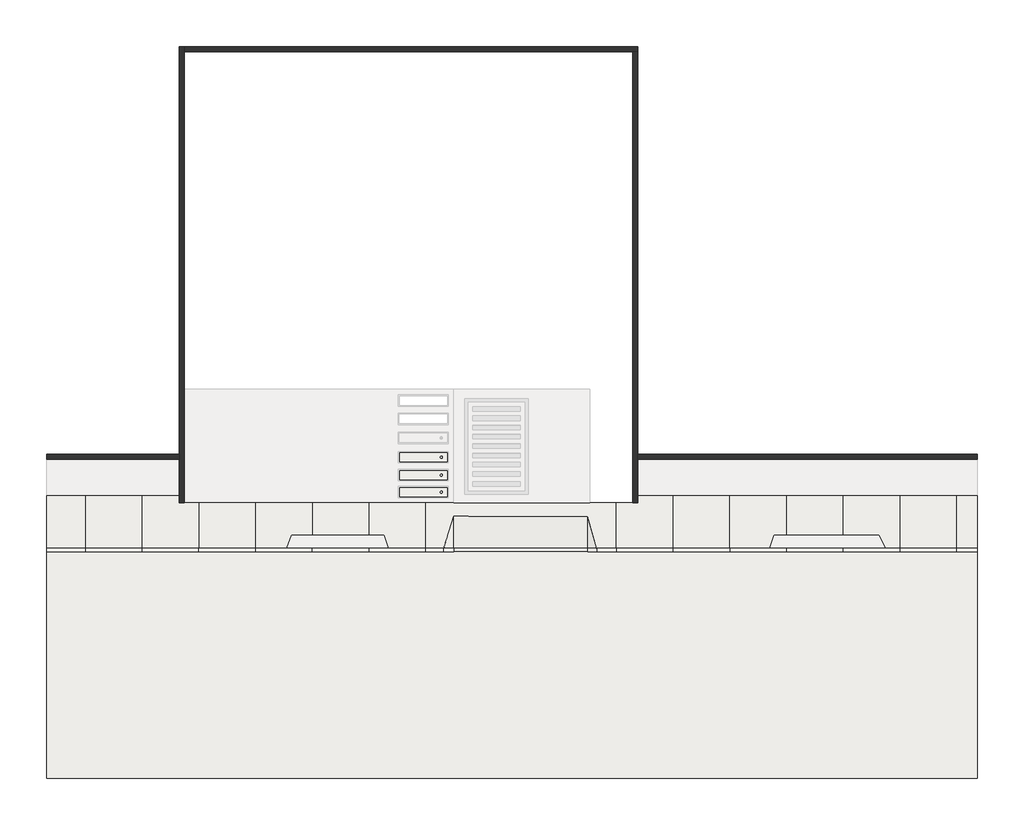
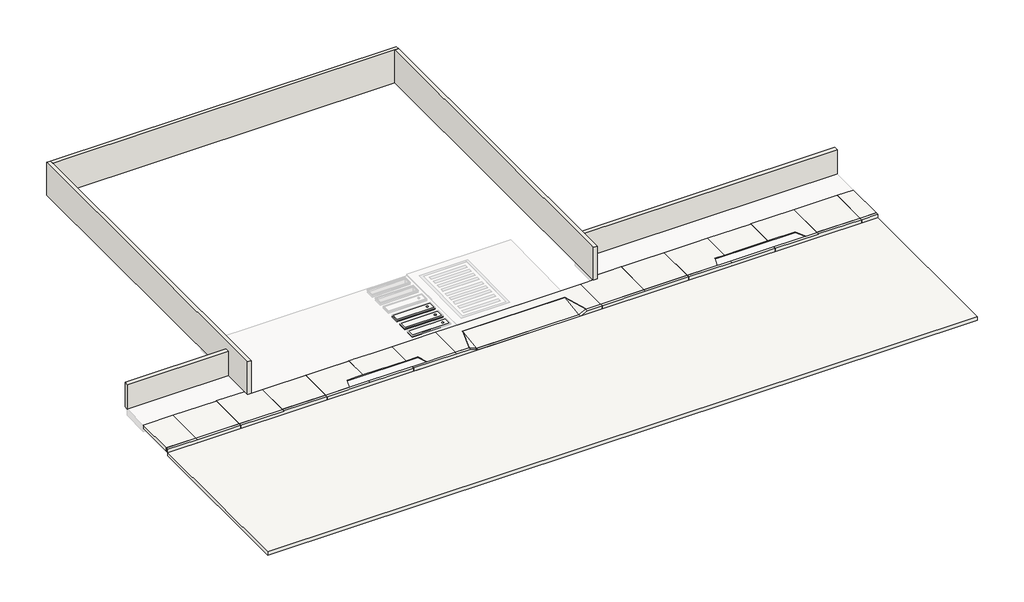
# One storey, part 1 of 2: 6 slabs, 5 walls.
"""IFC4 building model written with IfcOpenShell, lengths in millimetres."""

import ifcopenshell
import ifcopenshell.guid

model = None  # the IFC model being written
_history = None  # IfcOwnerHistory: only IFC2X3 demands one
_inside = {}  # id of a spatial element -> (the spatial element, [elements in it])
_under = {}  # id of a project, library or spatial element -> (it, [spatial elements below it])
_declared = {}  # id of a project -> (the project, [libraries it declares])
_typed = {}  # id of a type object -> (the type object, [elements of that type])
_made_of = {}  # id of a material, layer set ... -> (it, [elements and type objects made of it])


def new_model(schema):
    """Start an empty IFC model of exactly this schema.

    Asked for "IFC4X3", IfcOpenShell would pick the latest addendum, in which some entities
    have other attributes; the version numbers below select the first issue.
    IFC2X3 requires an IfcOwnerHistory on every rooted entity: one is made here for all.
    """
    global model, _history
    if schema == "IFC4X3":
        model = ifcopenshell.file(schema_version=(4, 3, 0, 0))
    else:
        model = ifcopenshell.file(schema=schema)
    _inside.clear()
    _under.clear()
    _declared.clear()
    _typed.clear()
    _made_of.clear()
    _history = None
    if model.schema == "IFC2X3":
        org = make("IfcOrganization", Name="unknown")
        user = make(
            "IfcPersonAndOrganization",
            ThePerson=make("IfcPerson", FamilyName="unknown"),
            TheOrganization=org,
        )
        app = make(
            "IfcApplication",
            ApplicationDeveloper=org,
            Version="unknown",
            ApplicationFullName="unknown",
            ApplicationIdentifier="unknown",
        )
        _history = make(
            "IfcOwnerHistory",
            OwningUser=user,
            OwningApplication=app,
            ChangeAction="ADDED",
            CreationDate=0,
        )
    return model


def make(cls, **values):
    """One entity of the class cls with the attributes given. An attribute that is None is left unset."""
    return model.create_entity(
        cls, **{name: value for name, value in values.items() if value is not None}
    )


def rooted(cls, **values):
    """An entity with a GlobalId (a new one), such as an element, a storey or a relation."""
    return make(cls, GlobalId=ifcopenshell.guid.new(), OwnerHistory=_history, **values)


def si_unit(unit_type, name, prefix=None):
    """IfcSIUnit, for example si_unit("LENGTHUNIT", "METRE", prefix="MILLI")."""
    return make("IfcSIUnit", UnitType=unit_type, Prefix=prefix, Name=name)


def assignment(units):
    """IfcUnitAssignment: the units of a project."""
    return None if units is None else make("IfcUnitAssignment", Units=units)


def point(xyz):
    """IfcCartesianPoint."""
    return None if xyz is None else make("IfcCartesianPoint", Coordinates=xyz)


def direction(xyz):
    """IfcDirection."""
    return None if xyz is None else make("IfcDirection", DirectionRatios=xyz)


def frame(location, z_axis=None, x_axis=None):
    """IfcAxis2Placement3D, a coordinate frame: its origin and axes. An axis left out is left unset."""
    return make(
        "IfcAxis2Placement3D",
        Location=point(location),
        Axis=direction(z_axis),
        RefDirection=direction(x_axis),
    )


def frame_2d(location, x_axis=None):
    """IfcAxis2Placement2D, a coordinate frame in the plane: its origin and x axis."""
    return make(
        "IfcAxis2Placement2D", Location=point(location), RefDirection=direction(x_axis)
    )


def origin():
    """The frame at (0, 0, 0) with its axes left unset."""
    return frame((0.0, 0.0, 0.0))


def origin_with_axes():
    """The frame at (0, 0, 0) with the z axis (0, 0, 1) and the x axis (1, 0, 0) written out."""
    return frame((0.0, 0.0, 0.0), z_axis=(0.0, 0.0, 1.0), x_axis=(1.0, 0.0, 0.0))


def place(relative_to, where):
    """IfcLocalPlacement: puts the frame where relative to a parent placement (None: the world)."""
    return make(
        "IfcLocalPlacement", PlacementRelTo=relative_to, RelativePlacement=where
    )


def context(
    kind, dimensions, precision=None, world=None, true_north=None, identifier=None
):
    """IfcGeometricRepresentationContext, for example the 3D "Model" context."""
    return make(
        "IfcGeometricRepresentationContext",
        ContextIdentifier=identifier,
        ContextType=kind,
        CoordinateSpaceDimension=dimensions,
        Precision=precision,
        WorldCoordinateSystem=world,
        TrueNorth=true_north,
    )


def project(units=None, contexts=None):
    """IfcProject with its units and contexts."""
    return rooted(
        "IfcProject",
        Name="project",
        RepresentationContexts=contexts,
        UnitsInContext=assignment(units),
    )


def spatial(cls, under=None, at=None, **own):
    """A site, building, storey or space (cls), placed at a placement, below another one or the project."""
    s = rooted(cls, ObjectPlacement=at, **own)
    if under is not None:
        _under.setdefault(under.id(), (under, []))[1].append(s)
    return s


def polyline(points):
    """IfcPolyline through the points."""
    return make("IfcPolyline", Points=[point(p) for p in points])


def circle_curve(where, radius):
    """IfcCircle in the frame where."""
    return make("IfcCircle", Position=where, Radius=radius)


def trimmed(basis, trim1, trim2, sense, master):
    """IfcTrimmedCurve: the piece of a basis curve between two trims."""
    return make(
        "IfcTrimmedCurve",
        BasisCurve=basis,
        Trim1=trim1,
        Trim2=trim2,
        SenseAgreement=sense,
        MasterRepresentation=master,
    )


def segment(curve, same_sense, transition):
    """IfcCompositeCurveSegment."""
    return make(
        "IfcCompositeCurveSegment",
        Transition=transition,
        SameSense=same_sense,
        ParentCurve=curve,
    )


def composite_curve(segments, self_intersect=None):
    """IfcCompositeCurve: segments joined end to end."""
    return make("IfcCompositeCurve", Segments=segments, SelfIntersect=self_intersect)


def outline(outer, holes=None, kind="AREA"):
    """IfcArbitraryClosedProfileDef: a profile drawn as a closed curve; with holes, ...WithVoids."""
    if holes is None:
        return make("IfcArbitraryClosedProfileDef", ProfileType=kind, OuterCurve=outer)
    return make(
        "IfcArbitraryProfileDefWithVoids",
        ProfileType=kind,
        OuterCurve=outer,
        InnerCurves=holes,
    )


def extrude(swept, where, along, depth):
    """IfcExtrudedAreaSolid: the profile swept, set in the frame where, extruded along a direction by depth."""
    return make(
        "IfcExtrudedAreaSolid",
        SweptArea=swept,
        Position=where,
        ExtrudedDirection=direction(along),
        Depth=depth,
    )


def faces_of(points, faces, orient=None, outer=None):
    """IfcFace entities. A face is a list of loops; a loop is a list of indices into points, from 0.

    orient and outer hold one flag for each loop. By default every Orientation is true, the
    first loop of a face is its IfcFaceOuterBound and the others are IfcFaceBound.
    """
    made = []
    for i, loops in enumerate(faces):
        bounds = []
        for j, loop in enumerate(loops):
            is_outer = j == 0 if outer is None else outer[i][j]
            bounds.append(
                make(
                    "IfcFaceOuterBound" if is_outer else "IfcFaceBound",
                    Bound=make("IfcPolyLoop", Polygon=[points[k] for k in loop]),
                    Orientation=True if orient is None else orient[i][j],
                )
            )
        made.append(make("IfcFace", Bounds=bounds))
    return made


def faceted_brep(points, faces, orient=None, outer=None, voids=None):
    """IfcFacetedBrep: a solid bounded by flat faces; with voids (closed shells), ...WithVoids."""
    shared = [point(p) for p in points]
    hull = make("IfcClosedShell", CfsFaces=faces_of(shared, faces, orient, outer))
    if voids is None:
        return make("IfcFacetedBrep", Outer=hull)
    return make(
        "IfcFacetedBrepWithVoids",
        Outer=hull,
        Voids=[
            make(cls, CfsFaces=faces_of(shared, fs, o, b)) for cls, fs, o, b in voids
        ],
    )


def shape(context_of_items, identifier, shape_type, items):
    """IfcShapeRepresentation: the items that make up one representation, for example the "Body"."""
    return make(
        "IfcShapeRepresentation",
        ContextOfItems=context_of_items,
        RepresentationIdentifier=identifier,
        RepresentationType=shape_type,
        Items=items,
    )


def made_of(thing, what):
    """Note that an element or type object is made of a material, layer set ...; save() writes the relation."""
    if what is not None:
        _made_of.setdefault(what.id(), (what, []))[1].append(thing)
    return thing


def element(
    cls,
    number,
    at=None,
    inside=None,
    cuts=None,
    type_object=None,
    material=None,
    context=None,
    identifier="Body",
    shape_type=None,
    held_by="IfcProductDefinitionShape",
    body=None,
    shapes=None,
    **own,
):
    """One element of the class cls, such as IfcWall. Its Tag is "e" and its number.

    at: its placement. inside: the storey or other place that contains it. cuts: it is an
    opening in that element (IfcRelVoidsElement). A single representation is given by context,
    identifier, shape_type and body (its items); several are given by shapes. held_by: the class
    of the entity that holds the representations. save() writes the other relations.
    """
    e = rooted(cls, Tag="e%d" % number, ObjectPlacement=at, **own)
    if body is not None:
        shapes = [shape(context, identifier, shape_type, body)]
    if shapes is not None:
        e.Representation = make(held_by, Representations=shapes)
    if inside is not None:
        _inside.setdefault(inside.id(), (inside, []))[1].append(e)
    if cuts is not None:
        rooted(
            "IfcRelVoidsElement", RelatingBuildingElement=cuts, RelatedOpeningElement=e
        )
    if type_object is not None:
        _typed.setdefault(type_object.id(), (type_object, []))[1].append(e)
    return made_of(e, material)


def aggregate(whole, parts):
    """IfcRelAggregates: a whole, such as a stair, and the parts it consists of."""
    return rooted("IfcRelAggregates", RelatingObject=whole, RelatedObjects=parts)


def save(model, path):
    """Write the relations noted so far, then the file.

    IfcRelAggregates (storeys below a building ...), IfcRelContainedInSpatialStructure (elements
    in a storey), IfcRelDefinesByType, IfcRelAssociatesMaterial and IfcRelDeclares: one each for
    every whole, place, type object, material and project.
    """
    for whole, parts in _under.values():
        aggregate(whole, parts)
    for where, things in _inside.values():
        rooted(
            "IfcRelContainedInSpatialStructure",
            RelatedElements=things,
            RelatingStructure=where,
        )
    for kind, things in _typed.values():
        rooted("IfcRelDefinesByType", RelatedObjects=things, RelatingType=kind)
    for what, things in _made_of.values():
        rooted("IfcRelAssociatesMaterial", RelatedObjects=things, RelatingMaterial=what)
    for by, libraries in _declared.values():
        rooted("IfcRelDeclares", RelatingContext=by, RelatedDefinitions=libraries)
    model.write(path)


def plane_surface(at):
    """IfcPlane: the flat surface through the origin of the frame at, square to its z axis."""
    return make("IfcPlane", Position=at)


def spline_surface(u_degree, v_degree, points, u_multiplicities, v_multiplicities, u_knots, v_knots, weights=None):
    """IfcBSplineSurfaceWithKnots; with weights, IfcRationalBSplineSurfaceWithKnots. points: one row for each step in u."""
    own = dict(
        UDegree=u_degree,
        VDegree=v_degree,
        ControlPointsList=[[point(p) for p in row] for row in points],
        SurfaceForm="UNSPECIFIED",
        UClosed=False,
        VClosed=False,
        SelfIntersect=False,
        UMultiplicities=u_multiplicities,
        VMultiplicities=v_multiplicities,
        UKnots=u_knots,
        VKnots=v_knots,
        KnotSpec="UNSPECIFIED",
    )
    if weights is None:
        return make("IfcBSplineSurfaceWithKnots", **own)
    return make("IfcRationalBSplineSurfaceWithKnots", WeightsData=weights, **own)


def advanced_brep(points, edges, surfaces, faces):
    """IfcAdvancedBrep: a solid bounded by faces that lie on surfaces and meet in shared edges.

    An edge is (start, end): straight between two places in points (the first is 0);
    or (start, end, curve); or (start, end, curve, False) where it runs against its curve.
    A face is (place in surfaces, loops), or (place, loops, False) where it looks against
    its surface's normal. A loop lists edges by number (the first is 1), with a minus sign
    where the edge is run from its end to its start. The first loop is the outer one.
    """
    corners = [point(p) for p in points]
    vertices = [make("IfcVertexPoint", VertexGeometry=c) for c in corners]
    made = []
    for start, end, *more in edges:
        made.append(
            make(
                "IfcEdgeCurve",
                EdgeStart=vertices[start],
                EdgeEnd=vertices[end],
                EdgeGeometry=more[0] if more else make("IfcPolyline", Points=[corners[start], corners[end]]),
                SameSense=more[1] if len(more) > 1 else True,
            )
        )
    hull = []
    for where, loops, *sense in faces:
        bounds = []
        for j, loop in enumerate(loops):
            ring = [make("IfcOrientedEdge", EdgeElement=made[abs(k) - 1], Orientation=k > 0) for k in loop]
            bounds.append(
                make(
                    "IfcFaceOuterBound" if j == 0 else "IfcFaceBound",
                    Bound=make("IfcEdgeLoop", EdgeList=ring),
                    Orientation=True,
                )
            )
        hull.append(make("IfcAdvancedFace", Bounds=bounds, FaceSurface=surfaces[where], SameSense=sense[0] if sense else True))
    return make("IfcAdvancedBrep", Outer=make("IfcClosedShell", CfsFaces=hull))


model = new_model("IFC4")

# Units and contexts
model_context = context("Model", 3, world=origin())
ifc_project = project(units=[si_unit("LENGTHUNIT", "METRE", prefix="MILLI")], contexts=[model_context])

# Site, building, storey
site = spatial("IfcSite", under=ifc_project)
building = spatial("IfcBuilding", under=site)
storey = spatial("IfcBuildingStorey", under=building, Name="CALÇADA", Elevation=0.0)

# Slabs
placement = place(None, origin())
element("IfcSlab", 1, ObjectType="Calçada - 20cm", at=placement, inside=storey, context=model_context, shape_type="AdvancedBrep", body=[
    advanced_brep(
    [(3458.4881645, -9933.9118273, 0.0), (3458.4881645, -9933.9118273, -200.0), (3458.4881645, -10233.9118273, -200.0), (3458.4881645, -10233.9118273, 0.0), (5110.8181457, -9933.9118273, 0.0), (5110.8181457, -9933.9118273, -180.0), (5120.8181457, -9933.9118273, -180.0), (5120.8181457, -9933.9118273, 0.0), (7610.8181457, -9933.9118273, 0.0), (7610.8181457, -9933.9118273, -180.0), (7620.8181457, -9933.9118273, -180.0), (7620.8181457, -9933.9118273, 0.0), (10110.8181457, -9933.9118273, 0.0), (10110.8181457, -9933.9118273, -180.0), (10120.8181457, -9933.9118273, -180.0), (10120.8181457, -9933.9118273, 0.0), (12610.8181457, -9933.9118273, 0.0), (12610.8181457, -9933.9118273, -180.0), (12620.8181457, -9933.9118273, -180.0), (12620.8181457, -9933.9118273, 0.0), (15110.8181457, -9933.9118273, 0.0), (15110.8181457, -9933.9118273, -180.0), (15120.8181457, -9933.9118273, -180.0), (15120.8181457, -9933.9118273, 0.0), (17610.8181457, -9933.9118273, 0.0), (17610.8181457, -9933.9118273, -180.0), (17620.8181457, -9933.9118273, -180.0), (17620.8181457, -9933.9118273, 0.0), (18539.0313852, -9933.9118273, 0.0), (18539.0313852, -9933.9118273, -200.0), (18539.0313852, -12233.9118273, 0.0), (18539.0313852, -12233.9118273, -200.0), (17620.8181457, -12233.9118273, 0.0), (17620.8181457, -12233.9118273, -180.0), (17610.8181457, -12233.9118273, -180.0), (17610.8181457, -12233.9118273, 0.0), (15120.8181457, -12233.9118273, 0.0), (15120.8181457, -12233.9118273, -180.0), (15110.8181457, -12233.9118273, -180.0), (15110.8181457, -12233.9118273, 0.0), (14496.0358554, -12233.9118273, 0.0), (14496.0358554, -12233.9118273, -200.0), (14216.0358554, -11633.9118273, 0.0), (14216.0358554, -11633.9118273, -200.0), (12620.8181457, -11633.9118273, 0.0), (12620.8181457, -11633.9118273, -180.0), (12610.8181457, -11633.9118273, -180.0), (12610.8181457, -11633.9118273, 0.0), (10120.8181457, -11633.9118273, 0.0), (10120.8181457, -11633.9118273, -180.0), (10110.8181457, -11633.9118273, -180.0), (10110.8181457, -11633.9118273, 0.0), (9552.6193652, -11633.9118273, 0.0), (9552.6193652, -11633.9118273, -200.0), (9352.6193652, -12233.9118273, 0.0), (9352.6193652, -12233.9118273, -200.0), (7620.8181457, -12233.9118273, 0.0), (7620.8181457, -12233.9118273, -180.0), (7610.8181457, -12233.9118273, -180.0), (7610.8181457, -12233.9118273, 0.0), (5120.8181457, -12233.9118273, 0.0), (5120.8181457, -12233.9118273, -180.0), (5110.8181457, -12233.9118273, -180.0), (5110.8181457, -12233.9118273, 0.0), (2620.8181457, -12233.9118273, 0.0), (2620.8181457, -12233.9118273, -180.0), (2610.8181457, -12233.9118273, -180.0), (2610.8181457, -12233.9118273, 0.0), (1747.8677013, -12233.9118273, 0.0), (1348.4881645, -12233.9118273, -200.0), (-4551.5118355, -12233.9118273, -200.0), (-4979.5347895, -12233.9118273, 0.0), (-4979.5347895, -12233.9118273, -180.0), (-4989.9917071, -12233.9118273, -180.0), (-4989.9917071, -12233.9118273, 0.0), (-5779.9181967, -12233.9118273, 0.0), (-5779.9181967, -12233.9118273, -180.0), (-5789.9181967, -12233.9118273, -180.0), (-5789.9181967, -12233.9118273, 0.0), (-7418.1118355, -12233.9118273, 0.0), (-7418.1118355, -12233.9118273, -200.0), (-4979.5347895, -12233.9118273, -200.0), (-4551.5118355, -12233.9118273, -400.0), (1348.4881645, -12233.9118273, -400.0), (1747.8677013, -12233.9118273, -200.0), (-7618.1118355, -11633.9118273, 0.0), (-7618.1118355, -11633.9118273, -200.0), (-8279.9181967, -11633.9118273, 0.0), (-8279.9181967, -11633.9118273, -180.0), (-8289.9181967, -11633.9118273, -180.0), (-8289.9181967, -11633.9118273, 0.0), (-10779.9181967, -11633.9118273, 0.0), (-10779.9181967, -11633.9118273, -180.0), (-10789.9181967, -11633.9118273, -180.0), (-10789.9181967, -11633.9118273, 0.0), (-11718.1118355, -11633.9118273, 0.0), (-11718.1118355, -11633.9118273, -200.0), (-11918.1118355, -12233.9118273, 0.0), (-11918.1118355, -12233.9118273, -200.0), (-13281.5118355, -12233.9118273, 0.0), (-13281.5118355, -12233.9118273, -180.0), (-13291.5118355, -12233.9118273, -180.0), (-13291.5118355, -12233.9118273, 0.0), (-15779.9181967, -12233.9118273, 0.0), (-15779.9181967, -12233.9118273, -180.0), (-15789.9181967, -12233.9118273, -180.0), (-15789.9181967, -12233.9118273, 0.0), (-18279.9181967, -12233.9118273, 0.0), (-18279.9181967, -12233.9118273, -180.0), (-18289.9181967, -12233.9118273, -180.0), (-18289.9181967, -12233.9118273, 0.0), (-20779.9181967, -12233.9118273, 0.0), (-20779.9181967, -12233.9118273, -180.0), (-20789.9181967, -12233.9118273, -180.0), (-20789.9181967, -12233.9118273, 0.0), (-22493.1118355, -12233.9118273, 0.0), (-22493.1118355, -12233.9118273, -200.0), (-22493.1118355, -9933.9118273, 0.0), (-22493.1118355, -9933.9118273, -200.0), (-20789.9181967, -9933.9118273, 0.0), (-20789.9181967, -9933.9118273, -180.0), (-20779.9181967, -9933.9118273, -180.0), (-20779.9181967, -9933.9118273, 0.0), (-18289.9181967, -9933.9118273, 0.0), (-18289.9181967, -9933.9118273, -180.0), (-18279.9181967, -9933.9118273, -180.0), (-18279.9181967, -9933.9118273, 0.0), (-16541.5118355, -9933.9118273, 0.0), (-16541.5118355, -9933.9118273, -200.0), (-16541.5118355, -10233.9118273, 0.0), (-16541.5118355, -10233.9118273, -200.0), (-15789.9181967, -10233.9118273, 0.0), (-15789.9181967, -10233.9118273, -180.0), (-15779.9181967, -10233.9118273, -180.0), (-15779.9181967, -10233.9118273, 0.0), (-13291.5118355, -10233.9118273, 0.0), (-13291.5118355, -10233.9118273, -180.0), (-13281.5118355, -10233.9118273, -180.0), (-13281.5118355, -10233.9118273, 0.0), (-10789.9181967, -10233.9118273, 0.0), (-10789.9181967, -10233.9118273, -180.0), (-10779.9181967, -10233.9118273, -180.0), (-10779.9181967, -10233.9118273, 0.0), (-8289.9181967, -10233.9118273, 0.0), (-8289.9181967, -10233.9118273, -180.0), (-8279.9181967, -10233.9118273, -180.0), (-8279.9181967, -10233.9118273, 0.0), (-5789.9181967, -10233.9118273, 0.0), (-5789.9181967, -10233.9118273, -180.0), (-5779.9181967, -10233.9118273, -180.0), (-5779.9181967, -10233.9118273, 0.0), (2610.8181457, -10233.9118273, 0.0), (2610.8181457, -10233.9118273, -180.0), (2620.8181457, -10233.9118273, -180.0), (2620.8181457, -10233.9118273, 0.0), (-4558.908685, -10823.9027957, 0.0), (1356.02634, -10831.1190513, 0.0), (1757.4803183, -12231.1554538, 0.0), (1747.0773239, -12231.1554538, 0.0), (1348.4881645, -10841.1098621, -200.0), (-4551.5118355, -10833.9118273, -200.0), (-4551.5118355, -10833.9118273, 0.0), (1348.4881645, -10841.1098621, 0.0), (-4551.5118355, -10833.9118273, -180.0), (1348.4881645, -10841.1098621, -180.0), (1747.0773239, -12231.1554538, -180.0), (1757.4803183, -12231.1554538, -180.0), (1356.02634, -10831.1190513, -180.0), (-4558.908685, -10823.9027957, -180.0)],
    [
        (0, 1),
        (1, 2),
        (2, 3),
        (3, 0),
        (0, 4),
        (4, 5),
        (5, 6),
        (6, 7),
        (7, 8),
        (8, 9),
        (9, 10),
        (10, 11),
        (11, 12),
        (12, 13),
        (13, 14),
        (14, 15),
        (15, 16),
        (16, 17),
        (17, 18),
        (18, 19),
        (19, 20),
        (20, 21),
        (21, 22),
        (22, 23),
        (23, 24),
        (24, 25),
        (25, 26),
        (26, 27),
        (27, 28),
        (28, 29),
        (29, 1),
        (28, 30),
        (30, 31),
        (31, 29),
        (30, 32),
        (32, 33),
        (33, 34),
        (34, 35),
        (35, 36),
        (36, 37),
        (37, 38),
        (38, 39),
        (39, 40),
        (40, 41),
        (41, 31),
        (40, 42),
        (42, 43),
        (43, 41),
        (42, 44),
        (44, 45),
        (45, 46),
        (46, 47),
        (47, 48),
        (48, 49),
        (49, 50),
        (50, 51),
        (51, 52),
        (52, 53),
        (53, 43),
        (52, 54),
        (54, 55),
        (55, 53),
        (54, 56),
        (56, 57),
        (57, 58),
        (58, 59),
        (59, 60),
        (60, 61),
        (61, 62),
        (62, 63),
        (63, 64),
        (64, 65),
        (65, 66),
        (66, 67),
        (67, 68),
        (68, 69),
        (69, 70),
        (70, 71),
        (71, 72),
        (72, 73),
        (73, 74),
        (74, 75),
        (75, 76),
        (76, 77),
        (77, 78),
        (78, 79),
        (79, 80),
        (80, 81),
        (81, 82),
        (82, 83),
        (83, 84),
        (84, 55),
        (79, 85),
        (85, 86),
        (86, 80),
        (85, 87),
        (87, 88),
        (88, 89),
        (89, 90),
        (90, 91),
        (91, 92),
        (92, 93),
        (93, 94),
        (94, 95),
        (95, 96),
        (96, 86),
        (95, 97),
        (97, 98),
        (98, 96),
        (97, 99),
        (99, 100),
        (100, 101),
        (101, 102),
        (102, 103),
        (103, 104),
        (104, 105),
        (105, 106),
        (106, 107),
        (107, 108),
        (108, 109),
        (109, 110),
        (110, 111),
        (111, 112),
        (112, 113),
        (113, 114),
        (114, 115),
        (115, 116),
        (116, 98),
        (115, 117),
        (117, 118),
        (118, 116),
        (117, 119),
        (119, 120),
        (120, 121),
        (121, 122),
        (122, 123),
        (123, 124),
        (124, 125),
        (125, 126),
        (126, 127),
        (127, 128),
        (128, 118),
        (127, 129),
        (129, 130),
        (130, 128),
        (129, 131),
        (131, 132),
        (132, 133),
        (133, 134),
        (134, 135),
        (135, 136),
        (136, 137),
        (137, 138),
        (138, 139),
        (139, 140),
        (140, 141),
        (141, 142),
        (142, 143),
        (143, 144),
        (144, 145),
        (145, 146),
        (146, 147),
        (147, 148),
        (148, 149),
        (149, 150),
        (150, 151),
        (151, 152),
        (152, 153),
        (153, 154),
        (154, 3),
        (2, 130),
        (114, 119),
        (94, 139),
        (138, 99),
        (78, 147),
        (146, 87),
        (51, 12),
        (11, 56),
        (39, 20),
        (19, 44),
        (27, 32),
        (154, 64),
        (63, 4),
        (126, 107),
        (106, 131),
        (122, 111),
        (110, 123),
        (102, 135),
        (134, 103),
        (90, 143),
        (142, 91),
        (74, 155),
        (155, 156),
        (156, 157),
        (157, 158),
        (158, 68),
        (67, 151),
        (150, 75),
        (59, 8),
        (7, 60),
        (47, 16),
        (15, 48),
        (35, 24),
        (23, 36),
        (84, 159),
        (159, 160),
        (160, 81),
        (161, 70),
        (69, 162),
        (162, 161),
        (82, 160),
        (159, 83),
        (158, 162),
        (161, 71),
        (163, 164),
        (164, 165),
        (165, 166),
        (166, 167),
        (167, 168),
        (168, 73),
        (72, 163),
        (65, 153),
        (152, 66),
        (61, 6),
        (5, 62),
        (57, 10),
        (9, 58),
        (49, 14),
        (13, 50),
        (45, 18),
        (17, 46),
        (37, 22),
        (21, 38),
        (33, 26),
        (25, 34),
        (76, 149),
        (148, 77),
        (88, 145),
        (144, 89),
        (92, 141),
        (140, 93),
        (100, 137),
        (136, 101),
        (104, 133),
        (132, 105),
        (108, 125),
        (124, 109),
        (112, 121),
        (120, 113),
        (161, 163),
        (168, 155),
        (167, 156),
        (166, 157),
        (165, 158),
        (164, 162),
    ],
    [
        plane_surface(frame((3458.4881645, -10233.9118273, -200.0), z_axis=(-1.0, 0.0, 0.0), x_axis=(0.0, 0.0, 1.0))),
        plane_surface(frame((3458.4881645, -9933.9118273, -200.0), z_axis=(0.0, 1.0, 0.0), x_axis=(0.0, 0.0, 1.0))),
        plane_surface(frame((18539.0313852, -9933.9118273, -200.0), z_axis=(1.0, 0.0, 0.0), x_axis=(0.0, 0.0, 1.0))),
        plane_surface(frame((18539.0313852, -12233.9118273, -200.0), z_axis=(0.0, -1.0, 0.0), x_axis=(0.0, 0.0, 1.0))),
        plane_surface(frame((14496.0358554, -12233.9118273, -200.0), z_axis=(-0.906183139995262, -0.42288546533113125, 0.0), x_axis=(0.0, 0.0, 1.0))),
        plane_surface(frame((14216.0358554, -11633.9118273, -200.0), z_axis=(0.0, -1.0, 0.0), x_axis=(0.0, 0.0, 1.0))),
        plane_surface(frame((9552.6193652, -11633.9118273, -200.0), z_axis=(0.948683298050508, -0.3162277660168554, 0.0), x_axis=(0.0, 0.0, 1.0))),
        plane_surface(frame((9352.6193652, -12233.9118273, -200.0), z_axis=(0.0, -1.0, 0.0), x_axis=(0.0, 0.0, 1.0))),
        plane_surface(frame((-7418.1118355, -12233.9118273, -200.0), z_axis=(-0.9486832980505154, -0.31622776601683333, 0.0), x_axis=(0.0, 0.0, 1.0))),
        plane_surface(frame((-7618.1118355, -11633.9118273, -200.0), z_axis=(0.0, -1.0, 0.0), x_axis=(0.0, 0.0, 1.0))),
        plane_surface(frame((-11718.1118355, -11633.9118273, -200.0), z_axis=(0.9486832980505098, -0.31622776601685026, 0.0), x_axis=(0.0, 0.0, 1.0))),
        plane_surface(frame((-11918.1118355, -12233.9118273, -200.0), z_axis=(0.0, -1.0, 0.0), x_axis=(0.0, 0.0, 1.0))),
        plane_surface(frame((-22493.1118355, -12233.9118273, -200.0), z_axis=(-1.0, 0.0, 0.0), x_axis=(0.0, 0.0, 1.0))),
        plane_surface(frame((-22493.1118355, -9933.9118273, -200.0), z_axis=(0.0, 1.0, 0.0), x_axis=(0.0, 0.0, 1.0))),
        plane_surface(frame((-16541.5118355, -9933.9118273, -200.0), z_axis=(1.0, 0.0, 0.0), x_axis=(0.0, 0.0, 1.0))),
        plane_surface(frame((-16541.5118355, -10233.9118273, -200.0), z_axis=(0.0, 1.0, 0.0), x_axis=(0.0, 0.0, 1.0))),
        plane_surface(frame((-1578.2017951, -11314.2717291, 0.0), z_axis=(0.0, 0.0, 1.0), x_axis=(0.0, 1.0, 0.0))),
        plane_surface(frame((-1578.2017951, -11314.2717291, -200.0), z_axis=(0.0, 0.0, -1.0), x_axis=(0.0, 1.0, 0.0))),
        spline_surface(1, 1, [[(1348.4881645, -12233.9118273, -200.0), (-4551.5118355, -12233.9118273, -200.0)], [(1348.4881645, -10841.1098621, 0.0), (-4551.5118355, -10833.9118273, 0.0)]], [2, 2], [2, 2], [0.0, 1.0], [0.0, 1.0]),
        spline_surface(1, 1, [[(1348.4881645, -12233.9118273, -400.0), (1348.4881645, -10841.1098621, -200.0)], [(-4551.5118355, -12233.9118273, -400.0), (-4551.5118355, -10833.9118273, -200.0)]], [2, 2], [2, 2], [0.0, 1.0], [0.0, 1.0]),
        plane_surface(frame((1481.6146768, -11769.6445056, -66.6666667), z_axis=(-0.4441233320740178, -0.12735031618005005, 0.886868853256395), x_axis=(0.8941491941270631, 0.0, 0.4477691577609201))),
        plane_surface(frame((1481.6146768, -11769.6445056, -266.6666667), z_axis=(0.4441233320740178, 0.12735031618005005, -0.886868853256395), x_axis=(0.8941491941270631, 0.0, 0.4477691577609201))),
        plane_surface(frame((-4694.1861535, -11767.2451607, -66.6666667), z_axis=(0.4198286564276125, -0.12835450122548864, 0.8984815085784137), x_axis=(0.0, 0.9899494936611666, 0.14142135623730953))),
        plane_surface(frame((-4694.1861535, -11767.2451607, -266.6666667), z_axis=(-0.4198286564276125, 0.12835450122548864, -0.8984815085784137), x_axis=(0.0, 0.9899494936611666, 0.14142135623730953))),
        plane_surface(frame((-4979.5347895, -12233.9118273, -180.0), z_axis=(0.0, 0.0, 1.0000000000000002), x_axis=(-0.29237170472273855, -0.956304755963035, 0.0))),
        plane_surface(frame((-4551.5118355, -10833.9118273, -180.0), z_axis=(-0.956304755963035, 0.29237170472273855, 0.0), x_axis=(0.0, 0.0, 1.0))),
        plane_surface(frame((-4989.9917071, -12233.9118273, -180.0), z_axis=(0.9563047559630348, -0.292371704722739, 0.0), x_axis=(0.0, 0.0, 1.0))),
        plane_surface(frame((-4558.908685, -10823.9027957, -180.0), z_axis=(-0.0012200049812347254, -0.999999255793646, 0.0), x_axis=(0.0, 0.0, 1.0))),
        plane_surface(frame((1356.02634, -10831.1190513, -180.0), z_axis=(-0.9612616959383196, -0.2756373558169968, 0.0), x_axis=(0.0, 0.0, 1.0))),
        plane_surface(frame((1757.4803183, -12231.1554538, -180.0), z_axis=(0.0, 1.0, 0.0), x_axis=(0.0, 0.0, 1.0))),
        plane_surface(frame((1747.0773239, -12231.1554538, -180.0), z_axis=(0.9612616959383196, 0.2756373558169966, 0.0), x_axis=(0.0, 0.0, 1.0))),
        plane_surface(frame((1348.4881645, -10841.1098621, -180.0), z_axis=(0.00122000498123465, 0.999999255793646, 0.0), x_axis=(0.0, 0.0, 1.0))),
        plane_surface(frame((2610.8181457, -12455.3862184, -180.0), z_axis=(1.0, 0.0, 0.0), x_axis=(0.0, 0.0, 1.0))),
        plane_surface(frame((2620.8181457, -9933.9118273, -180.0), z_axis=(-1.0, 0.0, 0.0), x_axis=(0.0, 0.0, 1.0))),
        plane_surface(frame((5110.8181457, -12455.3862184, -180.0), z_axis=(1.0, 0.0, 0.0), x_axis=(0.0, 0.0, 1.0))),
        plane_surface(frame((5120.8181457, -9933.9118273, -180.0), z_axis=(-1.0, 0.0, 0.0), x_axis=(0.0, 0.0, 1.0))),
        plane_surface(frame((7610.8181457, -12455.3862184, -180.0), z_axis=(1.0, 0.0, 0.0), x_axis=(0.0, 0.0, 1.0))),
        plane_surface(frame((7620.8181457, -9933.9118273, -180.0), z_axis=(-1.0, 0.0, 0.0), x_axis=(0.0, 0.0, 1.0))),
        plane_surface(frame((10110.8181457, -12455.3862184, -180.0), z_axis=(1.0, 0.0, 0.0), x_axis=(0.0, 0.0, 1.0))),
        plane_surface(frame((10120.8181457, -9933.9118273, -180.0), z_axis=(-1.0, 0.0, 0.0), x_axis=(0.0, 0.0, 1.0))),
        plane_surface(frame((12610.8181457, -12455.3862184, -180.0), z_axis=(1.0, 0.0, 0.0), x_axis=(0.0, 0.0, 1.0))),
        plane_surface(frame((12620.8181457, -9933.9118273, -180.0), z_axis=(-1.0, 0.0, 0.0), x_axis=(0.0, 0.0, 1.0))),
        plane_surface(frame((15110.8181457, -12455.3862184, -180.0), z_axis=(1.0, 0.0, 0.0), x_axis=(0.0, 0.0, 1.0))),
        plane_surface(frame((15120.8181457, -9933.9118273, -180.0), z_axis=(-1.0, 0.0, 0.0), x_axis=(0.0, 0.0, 1.0))),
        plane_surface(frame((17610.8181457, -12455.3862184, -180.0), z_axis=(1.0, 0.0, 0.0), x_axis=(0.0, 0.0, 1.0))),
        plane_surface(frame((17620.8181457, -9933.9118273, -180.0), z_axis=(-1.0, 0.0, 0.0), x_axis=(0.0, 0.0, 1.0))),
        plane_surface(frame((-5789.9181967, -12451.2195653, -180.0), z_axis=(1.0, 0.0, 0.0), x_axis=(0.0, 0.0, 1.0))),
        plane_surface(frame((-5779.9181967, -9921.7545191, -180.0), z_axis=(-1.0, 0.0, 0.0), x_axis=(0.0, 0.0, 1.0))),
        plane_surface(frame((-8289.9181967, -12453.2289102, -180.0), z_axis=(1.0, 0.0, 0.0), x_axis=(0.0, 0.0, 1.0))),
        plane_surface(frame((-8279.9181967, -9921.7545191, -180.0), z_axis=(-1.0, 0.0, 0.0), x_axis=(0.0, 0.0, 1.0))),
        plane_surface(frame((-10789.9181967, -12453.2289102, -180.0), z_axis=(1.0, 0.0, 0.0), x_axis=(0.0, 0.0, 1.0))),
        plane_surface(frame((-10779.9181967, -9921.7545191, -180.0), z_axis=(-1.0, 0.0, 0.0), x_axis=(0.0, 0.0, 1.0))),
        plane_surface(frame((-13291.5118355, -12453.2289102, -180.0), z_axis=(1.0, 0.0, 0.0), x_axis=(0.0, 0.0, 1.0))),
        plane_surface(frame((-13281.5118355, -9921.7545191, -180.0), z_axis=(-1.0, 0.0, 0.0), x_axis=(0.0, 0.0, 1.0))),
        plane_surface(frame((-15789.9181967, -12453.2289102, -180.0), z_axis=(1.0, 0.0, 0.0), x_axis=(0.0, 0.0, 1.0))),
        plane_surface(frame((-15779.9181967, -9921.7545191, -180.0), z_axis=(-1.0, 0.0, 0.0), x_axis=(0.0, 0.0, 1.0))),
        plane_surface(frame((-18289.9181967, -12453.2289102, -180.0), z_axis=(1.0, 0.0, 0.0), x_axis=(0.0, 0.0, 1.0))),
        plane_surface(frame((-18279.9181967, -9921.7545191, -180.0), z_axis=(-1.0, 0.0, 0.0), x_axis=(0.0, 0.0, 1.0))),
        plane_surface(frame((-20789.9181967, -12453.2289102, -180.0), z_axis=(1.0, 0.0, 0.0), x_axis=(0.0, 0.0, 1.0))),
        plane_surface(frame((-20779.9181967, -9921.7545191, -180.0), z_axis=(-1.0, 0.0, 0.0), x_axis=(0.0, 0.0, 1.0))),
    ],
    [
        (0, [[1, 2, 3, 4]]),
        (1, [[-1, 5, 6, 7, 8, 9, 10, 11, 12, 13, 14, 15, 16, 17, 18, 19, 20, 21, 22, 23, 24, 25, 26, 27, 28, 29, 30, 31]]),
        (2, [[-30, 32, 33, 34]]),
        (3, [[-33, 35, 36, 37, 38, 39, 40, 41, 42, 43, 44, 45]]),
        (4, [[-44, 46, 47, 48]]),
        (5, [[-47, 49, 50, 51, 52, 53, 54, 55, 56, 57, 58, 59]]),
        (6, [[-58, 60, 61, 62]]),
        (7, [[-61, 63, 64, 65, 66, 67, 68, 69, 70, 71, 72, 73, 74, 75, 76, 77, 78, 79, 80, 81, 82, 83, 84, 85, 86, 87, 88, 89, 90, 91, 92]]),
        (8, [[-87, 93, 94, 95]]),
        (9, [[-94, 96, 97, 98, 99, 100, 101, 102, 103, 104, 105, 106]]),
        (10, [[-105, 107, 108, 109]]),
        (11, [[-108, 110, 111, 112, 113, 114, 115, 116, 117, 118, 119, 120, 121, 122, 123, 124, 125, 126, 127, 128]]),
        (12, [[-127, 129, 130, 131]]),
        (13, [[-130, 132, 133, 134, 135, 136, 137, 138, 139, 140, 141, 142]]),
        (14, [[-141, 143, 144, 145]]),
        (15, [[-144, 146, 147, 148, 149, 150, 151, 152, 153, 154, 155, 156, 157, 158, 159, 160, 161, 162, 163, 164, 165, 166, 167, 168, 169, 170, -3, 171]]),
        (16, [[-129, -126, 172, -132]]),
        (16, [[-107, -104, 173, -154, 174, -110]]),
        (16, [[-93, -86, 175, -162, 176, -96]]),
        (16, [[-60, -57, 177, -13, 178, -63]]),
        (16, [[-46, -43, 179, -21, 180, -49]]),
        (16, [[-32, -29, 181, -35]]),
        (16, [[-4, -170, 182, -71, 183, -5]]),
        (16, [[-143, -140, 184, -118, 185, -146]]),
        (16, [[-136, 186, -122, 187]]),
        (16, [[-114, 188, -150, 189]]),
        (16, [[-100, 190, -158, 191]]),
        (16, [[-82, 192, 193, 194, 195, 196, -75, 197, -166, 198]]),
        (16, [[-67, 199, -9, 200]]),
        (16, [[-53, 201, -17, 202]]),
        (16, [[-39, 203, -25, 204]]),
        (17, [[-145, -171, -2, -31, -34, -45, -48, -59, -62, -92, 205, 206, 207, -88, -95, -106, -109, -128, -131, -142]]),
        (18, [[208, -77, 209, 210]]),
        (19, [[-90, 211, -206, 212]]),
        (20, [[-209, -76, -196, 213]]),
        (21, [[-212, -205, -91]]),
        (22, [[-208, 214, -78]]),
        (23, [[-211, -89, -207]]),
        (24, [[215, 216, 217, 218, 219, 220, -80, 221]]),
        (24, [[222, -168, 223, -73]]),
        (24, [[224, -7, 225, -69]]),
        (24, [[226, -11, 227, -65]]),
        (24, [[228, -15, 229, -55]]),
        (24, [[230, -19, 231, -51]]),
        (24, [[232, -23, 233, -41]]),
        (24, [[234, -27, 235, -37]]),
        (24, [[236, -164, 237, -84]]),
        (24, [[238, -160, 239, -98]]),
        (24, [[240, -156, 241, -102]]),
        (24, [[242, -152, 243, -112]]),
        (24, [[244, -148, 245, -116]]),
        (24, [[246, -138, 247, -120]]),
        (24, [[248, -134, 249, -124]]),
        (25, [[-221, -79, -214, 250]]),
        (26, [[-220, 251, -192, -81]]),
        (27, [[-219, 252, -193, -251]]),
        (28, [[-218, 253, -194, -252]]),
        (29, [[-217, 254, -195, -253]]),
        (30, [[-216, 255, -213, -254]]),
        (31, [[-215, -250, -210, -255]]),
        (32, [[-223, -167, -197, -74]]),
        (33, [[-222, -72, -182, -169]]),
        (34, [[-225, -6, -183, -70]]),
        (35, [[-224, -68, -200, -8]]),
        (36, [[-227, -10, -199, -66]]),
        (37, [[-226, -64, -178, -12]]),
        (38, [[-229, -14, -177, -56]]),
        (39, [[-228, -54, -202, -16]]),
        (40, [[-231, -18, -201, -52]]),
        (41, [[-230, -50, -180, -20]]),
        (42, [[-233, -22, -179, -42]]),
        (43, [[-232, -40, -204, -24]]),
        (44, [[-235, -26, -203, -38]]),
        (45, [[-234, -36, -181, -28]]),
        (46, [[-237, -163, -175, -85]]),
        (47, [[-236, -83, -198, -165]]),
        (48, [[-239, -159, -190, -99]]),
        (49, [[-238, -97, -176, -161]]),
        (50, [[-241, -155, -173, -103]]),
        (51, [[-240, -101, -191, -157]]),
        (52, [[-243, -151, -188, -113]]),
        (53, [[-242, -111, -174, -153]]),
        (54, [[-245, -147, -185, -117]]),
        (55, [[-244, -115, -189, -149]]),
        (56, [[-247, -137, -187, -121]]),
        (57, [[-246, -119, -184, -139]]),
        (58, [[-249, -133, -172, -125]]),
        (59, [[-248, -123, -186, -135]]),
    ],
),
])
element("IfcSlab", 2, ObjectType="Meio Fio - 20cm", at=placement, inside=storey, context=model_context, shape_type="Brep", body=[
    faceted_brep([(18539.0313852, -12383.9118273, 0.0), (18539.0313852, -12383.9118273, -200.0), (18539.0313852, -12233.9118273, -200.0), (18539.0313852, -12233.9118273, 0.0), (17620.8181457, -12383.9118273, 0.0), (17620.8181457, -12383.9118273, -180.0), (17610.8181457, -12383.9118273, -180.0), (17610.8181457, -12383.9118273, 0.0), (15120.8181457, -12383.9118273, 0.0), (15120.8181457, -12383.9118273, -180.0), (15110.8181457, -12383.9118273, -180.0), (15110.8181457, -12383.9118273, 0.0), (12620.8181457, -12383.9118273, 0.0), (12620.8181457, -12383.9118273, -180.0), (12610.8181457, -12383.9118273, -180.0), (12610.8181457, -12383.9118273, 0.0), (10120.8181457, -12383.9118273, 0.0), (10120.8181457, -12383.9118273, -180.0), (10110.8181457, -12383.9118273, -180.0), (10110.8181457, -12383.9118273, 0.0), (7620.8181457, -12383.9118273, 0.0), (7620.8181457, -12383.9118273, -180.0), (7610.8181457, -12383.9118273, -180.0), (7610.8181457, -12383.9118273, 0.0), (5120.8181457, -12383.9118273, 0.0), (5120.8181457, -12383.9118273, -180.0), (5110.8181457, -12383.9118273, -180.0), (5110.8181457, -12383.9118273, 0.0), (2620.8181457, -12383.9118273, 0.0), (2620.8181457, -12383.9118273, -180.0), (2610.8181457, -12383.9118273, -180.0), (2610.8181457, -12383.9118273, 0.0), (1748.4881645, -12383.9118273, 0.0), (1348.4881645, -12383.9118273, -200.0), (-4542.9297644, -12383.9118273, -200.0), (-4981.1508251, -12383.9118273, 0.0), (-5779.9181967, -12383.9118273, 0.0), (-5779.9181967, -12383.9118273, -180.0), (-5789.9181967, -12383.9118273, -180.0), (-5789.9181967, -12383.9118273, 0.0), (-8279.9181967, -12383.9118273, 0.0), (-8279.9181967, -12383.9118273, -180.0), (-8289.9181967, -12383.9118273, -180.0), (-8289.9181967, -12383.9118273, 0.0), (-10779.9181967, -12383.9118273, 0.0), (-10779.9181967, -12383.9118273, -180.0), (-10789.9181967, -12383.9118273, -180.0), (-10789.9181967, -12383.9118273, 0.0), (-13281.5118355, -12383.9118273, 0.0), (-13281.5118355, -12383.9118273, -180.0), (-13291.5118355, -12383.9118273, -180.0), (-13291.5118355, -12383.9118273, 0.0), (-15779.9181967, -12383.9118273, 0.0), (-15779.9181967, -12383.9118273, -180.0), (-15789.9181967, -12383.9118273, -180.0), (-15789.9181967, -12383.9118273, 0.0), (-18279.9181967, -12383.9118273, 0.0), (-18279.9181967, -12383.9118273, -180.0), (-18289.9181967, -12383.9118273, -180.0), (-18289.9181967, -12383.9118273, 0.0), (-20779.9181967, -12383.9118273, 0.0), (-20779.9181967, -12383.9118273, -180.0), (-20789.9181967, -12383.9118273, -180.0), (-20789.9181967, -12383.9118273, 0.0), (-22493.1118355, -12383.9118273, 0.0), (-22493.1118355, -12383.9118273, -200.0), (-4981.1508251, -12383.9118273, -200.0), (-4542.9297644, -12383.9118273, -400.0), (1348.4881645, -12383.9118273, -400.0), (1748.4881645, -12383.9118273, -200.0), (-22493.1118355, -12233.9118273, 0.0), (-22493.1118355, -12233.9118273, -200.0), (-20789.9181967, -12233.9118273, 0.0), (-20789.9181967, -12233.9118273, -180.0), (-20779.9181967, -12233.9118273, -180.0), (-20779.9181967, -12233.9118273, 0.0), (-18289.9181967, -12233.9118273, 0.0), (-18289.9181967, -12233.9118273, -180.0), (-18279.9181967, -12233.9118273, -180.0), (-18279.9181967, -12233.9118273, 0.0), (-15789.9181967, -12233.9118273, 0.0), (-15789.9181967, -12233.9118273, -180.0), (-15779.9181967, -12233.9118273, -180.0), (-15779.9181967, -12233.9118273, 0.0), (-13291.5118355, -12233.9118273, 0.0), (-13291.5118355, -12233.9118273, -180.0), (-13281.5118355, -12233.9118273, -180.0), (-13281.5118355, -12233.9118273, 0.0), (-10789.9181967, -12233.9118273, 0.0), (-10789.9181967, -12233.9118273, -180.0), (-10779.9181967, -12233.9118273, -180.0), (-10779.9181967, -12233.9118273, 0.0), (-8289.9181967, -12233.9118273, 0.0), (-8289.9181967, -12233.9118273, -180.0), (-8279.9181967, -12233.9118273, -180.0), (-8279.9181967, -12233.9118273, 0.0), (-5789.9181967, -12233.9118273, 0.0), (-5789.9181967, -12233.9118273, -180.0), (-5779.9181967, -12233.9118273, -180.0), (-5779.9181967, -12233.9118273, 0.0), (-4989.9917071, -12233.9118273, 0.0), (-4981.1508251, -12233.9118273, 0.0), (-4979.5347895, -12233.9118273, -0.7375436), (-4542.9297644, -12233.9118273, -200.0), (1348.4881645, -12233.9118273, -200.0), (1748.4881645, -12233.9118273, 0.0), (2610.8181457, -12233.9118273, 0.0), (2610.8181457, -12233.9118273, -180.0), (2620.8181457, -12233.9118273, -180.0), (2620.8181457, -12233.9118273, 0.0), (5110.8181457, -12233.9118273, 0.0), (5110.8181457, -12233.9118273, -180.0), (5120.8181457, -12233.9118273, -180.0), (5120.8181457, -12233.9118273, 0.0), (7610.8181457, -12233.9118273, 0.0), (7610.8181457, -12233.9118273, -180.0), (7620.8181457, -12233.9118273, -180.0), (7620.8181457, -12233.9118273, 0.0), (10110.8181457, -12233.9118273, 0.0), (10110.8181457, -12233.9118273, -180.0), (10120.8181457, -12233.9118273, -180.0), (10120.8181457, -12233.9118273, 0.0), (12610.8181457, -12233.9118273, 0.0), (12610.8181457, -12233.9118273, -180.0), (12620.8181457, -12233.9118273, -180.0), (12620.8181457, -12233.9118273, 0.0), (15110.8181457, -12233.9118273, 0.0), (15110.8181457, -12233.9118273, -180.0), (15120.8181457, -12233.9118273, -180.0), (15120.8181457, -12233.9118273, 0.0), (17610.8181457, -12233.9118273, 0.0), (17610.8181457, -12233.9118273, -180.0), (17620.8181457, -12233.9118273, -180.0), (17620.8181457, -12233.9118273, 0.0), (1748.4881645, -12233.9118273, -200.0), (1348.4881645, -12233.9118273, -400.0), (-4542.9297644, -12233.9118273, -400.0), (-4981.1508251, -12233.9118273, -200.0)], [[[0, 1, 2, 3]], [[1, 0, 4, 5, 6, 7, 8, 9, 10, 11, 12, 13, 14, 15, 16, 17, 18, 19, 20, 21, 22, 23, 24, 25, 26, 27, 28, 29, 30, 31, 32, 33, 34, 35, 36, 37, 38, 39, 40, 41, 42, 43, 44, 45, 46, 47, 48, 49, 50, 51, 52, 53, 54, 55, 56, 57, 58, 59, 60, 61, 62, 63, 64, 65, 66, 67, 68, 69]], [[65, 64, 70, 71]], [[71, 70, 72, 73, 74, 75, 76, 77, 78, 79, 80, 81, 82, 83, 84, 85, 86, 87, 88, 89, 90, 91, 92, 93, 94, 95, 96, 97, 98, 99, 100, 101, 102, 103, 104, 105, 106, 107, 108, 109, 110, 111, 112, 113, 114, 115, 116, 117, 118, 119, 120, 121, 122, 123, 124, 125, 126, 127, 128, 129, 130, 131, 132, 133, 3, 2, 134, 135, 136, 137]], [[70, 64, 63, 72]], [[35, 101, 100, 99, 36]], [[40, 39, 96, 95]], [[44, 43, 92, 91]], [[48, 47, 88, 87]], [[52, 51, 84, 83]], [[56, 55, 80, 79]], [[60, 59, 76, 75]], [[65, 71, 137, 66]], [[0, 3, 133, 4]], [[105, 32, 31, 106]], [[110, 109, 28, 27]], [[114, 113, 24, 23]], [[118, 117, 20, 19]], [[122, 121, 16, 15]], [[126, 125, 12, 11]], [[130, 129, 8, 7]], [[2, 1, 69, 134]], [[34, 103, 102, 101, 35]], [[136, 67, 66, 137]], [[103, 34, 33, 104]], [[67, 136, 135, 68]], [[104, 33, 32, 105]], [[68, 135, 134, 69]], [[29, 108, 107, 30]], [[25, 112, 111, 26]], [[21, 116, 115, 22]], [[17, 120, 119, 18]], [[13, 124, 123, 14]], [[9, 128, 127, 10]], [[5, 132, 131, 6]], [[37, 98, 97, 38]], [[41, 94, 93, 42]], [[45, 90, 89, 46]], [[49, 86, 85, 50]], [[53, 82, 81, 54]], [[57, 78, 77, 58]], [[61, 74, 73, 62]], [[30, 107, 106, 31]], [[108, 29, 28, 109]], [[26, 111, 110, 27]], [[112, 25, 24, 113]], [[22, 115, 114, 23]], [[116, 21, 20, 117]], [[18, 119, 118, 19]], [[120, 17, 16, 121]], [[14, 123, 122, 15]], [[124, 13, 12, 125]], [[10, 127, 126, 11]], [[128, 9, 8, 129]], [[6, 131, 130, 7]], [[132, 5, 4, 133]], [[38, 97, 96, 39]], [[98, 37, 36, 99]], [[42, 93, 92, 43]], [[94, 41, 40, 95]], [[46, 89, 88, 47]], [[90, 45, 44, 91]], [[50, 85, 84, 51]], [[86, 49, 48, 87]], [[54, 81, 80, 55]], [[82, 53, 52, 83]], [[58, 77, 76, 59]], [[78, 57, 56, 79]], [[62, 73, 72, 63]], [[74, 61, 60, 75]]]),
])
element("IfcSlab", 3, ObjectType="Asfalto - 20cm", at=placement, inside=storey, context=model_context, shape_type="SweptSolid", body=[
    extrude(outline(polyline([(18539.0313852, -12383.9118273), (18539.0313852, -22383.9118273), (-22493.1118355, -22383.9118273), (-22493.1118355, -12383.9118273), (18539.0313852, -12383.9118273)])), frame((0.0, 0.0, -400.0), z_axis=(0.0, 0.0, 1.0), x_axis=(1.0, 0.0, 0.0)), (0.0, 0.0, 1.0), 200.0),
])
element("IfcSlab", 4, ObjectType="Concreto Escuro - 20cm", at=placement, inside=storey, context=model_context, shape_type="SweptSolid", body=[
    extrude(outline(polyline([(-6982.5518343, -9512.2596302), (-4782.5518343, -9512.2596302), (-4782.5518343, -10012.2596302), (-6982.5518343, -10012.2596302), (-6982.5518343, -9512.2596302)]), holes=[composite_curve([segment(trimmed(circle_curve(frame_2d((-5091.5118355, -9762.3839203)), 51.0), [point((-5091.5118355, -9813.3839203))], [point((-5091.5118355, -9711.3839203))], True, "CARTESIAN"), True, "CONTINUOUS"), segment(trimmed(circle_curve(frame_2d((-5091.5118355, -9762.3839203)), 51.0), [point((-5091.5118355, -9711.3839203))], [point((-5091.5118355, -9813.3839203))], True, "CARTESIAN"), True, "CONTINUOUS")], self_intersect=False)]), frame((0.0, 0.0, -123.0), z_axis=(0.0, 0.0, 1.0), x_axis=(1.0, 0.0, 0.0)), (0.0, 0.0, 1.0), 200.0),
])
element("IfcSlab", 5, ObjectType="Concreto Escuro - 20cm", at=placement, inside=storey, context=model_context, shape_type="SweptSolid", body=[
    extrude(outline(polyline([(-6982.5518343, -8764.2596302), (-4782.5518343, -8764.2596302), (-4782.5518343, -9264.2596302), (-6982.5518343, -9264.2596302), (-6982.5518343, -8764.2596302)]), holes=[composite_curve([segment(trimmed(circle_curve(frame_2d((-5091.5118355, -9014.3839203)), 51.0), [point((-5091.5118355, -9065.3839203))], [point((-5091.5118355, -8963.3839203))], True, "CARTESIAN"), True, "CONTINUOUS"), segment(trimmed(circle_curve(frame_2d((-5091.5118355, -9014.3839203)), 51.0), [point((-5091.5118355, -8963.3839203))], [point((-5091.5118355, -9065.3839203))], True, "CARTESIAN"), True, "CONTINUOUS")], self_intersect=False)]), frame((0.0, 0.0, -105.0), z_axis=(0.0, 0.0, 1.0), x_axis=(1.0, 0.0, 0.0)), (0.0, 0.0, 1.0), 200.0),
])
element("IfcSlab", 6, ObjectType="Concreto Escuro - 20cm", at=placement, inside=storey, context=model_context, shape_type="SweptSolid", body=[
    extrude(outline(polyline([(-6982.5518343, -7976.2596302), (-4782.5518343, -7976.2596302), (-4782.5518343, -8476.2596302), (-6982.5518343, -8476.2596302), (-6982.5518343, -7976.2596302)]), holes=[composite_curve([segment(trimmed(circle_curve(frame_2d((-5091.5118355, -8226.3839203)), 51.0), [point((-5091.5118355, -8277.3839203))], [point((-5091.5118355, -8175.3839203))], True, "CARTESIAN"), True, "CONTINUOUS"), segment(trimmed(circle_curve(frame_2d((-5091.5118355, -8226.3839203)), 51.0), [point((-5091.5118355, -8175.3839203))], [point((-5091.5118355, -8277.3839203))], True, "CARTESIAN"), True, "CONTINUOUS")], self_intersect=False)]), frame((0.0, 0.0, -90.0), z_axis=(0.0, 0.0, 1.0), x_axis=(1.0, 0.0, 0.0)), (0.0, 0.0, 1.0), 200.0),
])

# Walls
element("IfcWall", 7, ObjectType="MURO - 22CM", at=placement, inside=storey, context=model_context, shape_type="SweptSolid", body=[
    extrude(outline(polyline([(-22493.1118355, -8100.3717183), (-16651.5118355, -8100.3717183), (-16651.5118355, -8320.3717183), (-22493.1118355, -8320.3717183), (-22493.1118355, -8100.3717183)])), origin_with_axes(), (0.0, 0.0, 1.0), 1500.0),
])
element("IfcWall", 8, ObjectType="MURO - 22CM", at=placement, inside=storey, context=model_context, shape_type="SweptSolid", body=[
    extrude(outline(polyline([(18539.0313852, -8320.3717183), (3568.4881645, -8320.3717183), (3568.4881645, -8100.3717183), (18539.0313852, -8100.3717183), (18539.0313852, -8320.3717183)])), origin_with_axes(), (0.0, 0.0, 1.0), 1500.0),
])
element("IfcWall", 9, ObjectType="MURO - 22CM", at=placement, inside=storey, context=model_context, shape_type="Brep", body=[
    faceted_brep([(-16431.5118355, -10233.9118273, 0.0), (-16431.5118355, 9656.0881727, 0.0), (-16431.5118355, 9876.0881727, 0.0), (-16431.5118355, 9876.0881727, 2000.0), (-16431.5118355, 9656.0881727, 2000.0), (-16431.5118355, -10233.9118273, 2000.0), (-16651.5118355, -10233.9118273, 0.0), (-16651.5118355, -10233.9118273, 2000.0), (-16651.5118355, 9876.0881727, 2000.0), (-16651.5118355, 9876.0881727, 0.0), (-16651.5118355, -8100.3717183, 0.0), (-16651.5118355, -8320.3717183, 0.0)], [[[0, 1, 2, 3, 4, 5]], [[6, 7, 8, 9, 10, 11]], [[2, 1, 0, 6, 11, 10, 9]], [[5, 4, 3, 8, 7]], [[0, 5, 7, 6]], [[3, 2, 9, 8]]]),
])
element("IfcWall", 10, ObjectType="MURO - 22CM", at=placement, inside=storey, context=model_context, shape_type="Brep", body=[
    faceted_brep([(-16431.5118355, 9656.0881727, 0.0), (3348.4881645, 9656.0881727, 0.0), (3568.4881645, 9656.0881727, 0.0), (3568.4881645, 9656.0881727, 2000.0), (3348.4881645, 9656.0881727, 2000.0), (-16431.5118355, 9656.0881727, 2000.0), (-16431.5118355, 9876.0881727, 0.0), (-16431.5118355, 9876.0881727, 2000.0), (3568.4881645, 9876.0881727, 2000.0), (3568.4881645, 9876.0881727, 0.0)], [[[0, 1, 2, 3, 4, 5]], [[6, 7, 8, 9]], [[2, 1, 0, 6, 9]], [[5, 4, 3, 8, 7]], [[3, 2, 9, 8]], [[0, 5, 7, 6]]]),
])
element("IfcWall", 11, ObjectType="MURO - 22CM", at=placement, inside=storey, context=model_context, shape_type="Brep", body=[
    faceted_brep([(3348.4881645, 9656.0881727, 0.0), (3348.4881645, -10233.9118273, 0.0), (3348.4881645, -10233.9118273, 2000.0), (3348.4881645, 9656.0881727, 2000.0), (3568.4881645, 9656.0881727, 0.0), (3568.4881645, 9656.0881727, 2000.0), (3568.4881645, -10233.9118273, 2000.0), (3568.4881645, -10233.9118273, 0.0), (3568.4881645, -8320.3717183, 0.0), (3568.4881645, -8100.3717183, 0.0)], [[[0, 1, 2, 3]], [[4, 5, 6, 7, 8, 9]], [[1, 0, 4, 9, 8, 7]], [[2, 1, 7, 6]], [[3, 2, 6, 5]], [[0, 3, 5, 4]]]),
])

save(model, "model.ifc")
